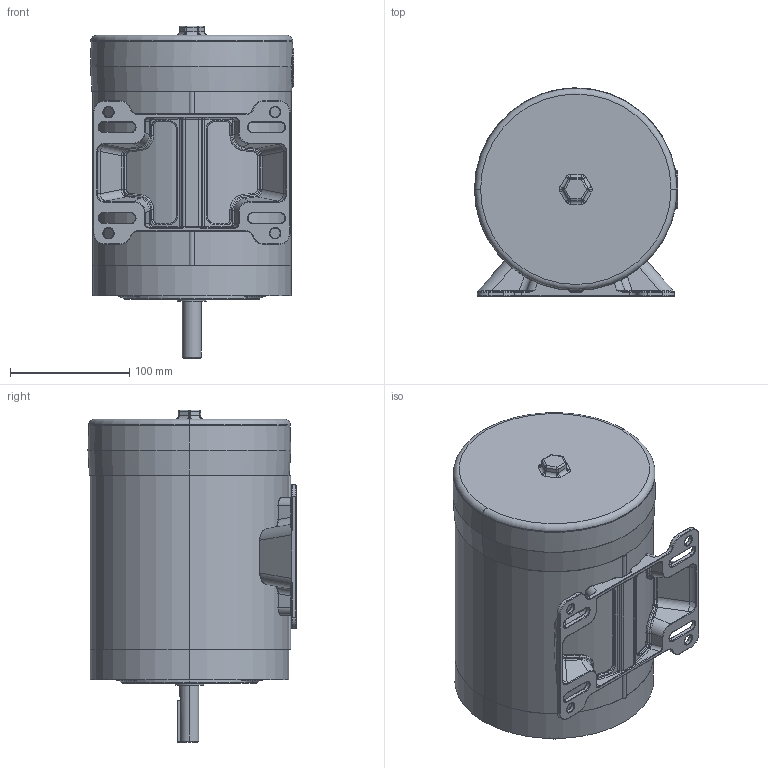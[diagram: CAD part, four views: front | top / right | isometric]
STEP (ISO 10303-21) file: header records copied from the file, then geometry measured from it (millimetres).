
FILE_DESCRIPTION (( 'STEP AP203' ), '1' );
FILE_NAME ('028767-575_Rev00.STEP', '2017-09-11T10:37:32', ( '' ), ( '' ), 'SwSTEP 2.0', 'SolidWorks 2015', '' );
FILE_SCHEMA (( 'CONFIG_CONTROL_DESIGN' ));
Length unit declared in the file: inch
Products named in the file (1): 028767-575_Rev00
Bounding box: 170.41 x 174.52 x 278.42 mm (x, y, z)
Volume: 852718.2 mm3; surface area: 505382.8 mm2
Topology: 19 solids, 19 shells, 1935 faces, 4432 edges, 2510 vertices
Faces by surface type: cylinder 560, bspline 476, plane 303, torus 284, cone 240, sphere 72
Entity records: 74608 total; most frequent: CARTESIAN_POINT 34329, ORIENTED_EDGE 8688, DIRECTION 8260, EDGE_CURVE 4344, AXIS2_PLACEMENT_3D 3546, VERTEX_POINT 2510, CIRCLE 2086, EDGE_LOOP 2072
